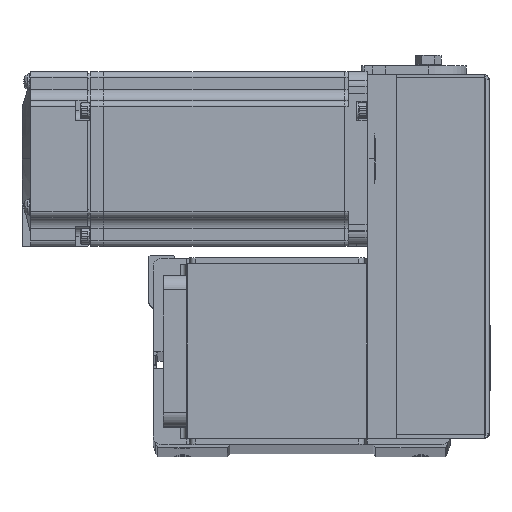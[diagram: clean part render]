
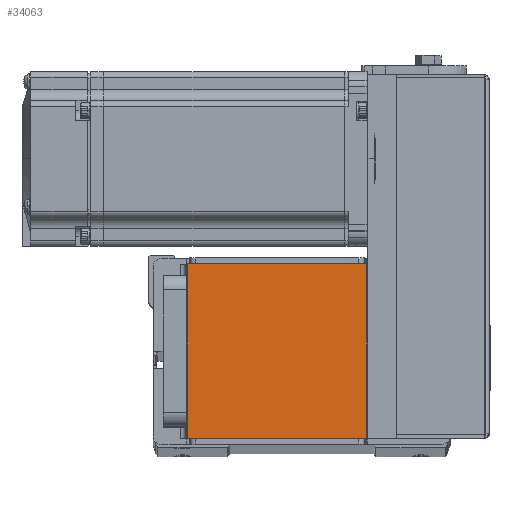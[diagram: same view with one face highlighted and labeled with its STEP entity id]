
A CAD part, top view. The second image highlights one B-rep face of the part: STEP entity #34063.
In plain terms, the highlighted planar face has unit normal (0, 0, 1) as drawn and (0, 1, 0) by its records, which use the part's own axes.
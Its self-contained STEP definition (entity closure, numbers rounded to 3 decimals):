
#417 = CARTESIAN_POINT ( 'NONE',  ( -30.7, 88., -2. ) ) ;
#1209 = DIRECTION ( 'NONE',  ( 0., 0., 1. ) ) ;
#1896 = EDGE_CURVE ( 'NONE', #35958, #2084, #44213, .T. ) ;
#2084 = VERTEX_POINT ( 'NONE', #417 ) ;
#4735 = PLANE ( 'NONE',  #14841 ) ;
#5255 = DIRECTION ( 'NONE',  ( -1., 0., 0. ) ) ;
#5449 = ORIENTED_EDGE ( 'NONE', *, *, #9844, .F. ) ;
#6679 = DIRECTION ( 'NONE',  ( 1., 0., 0. ) ) ;
#8016 = VECTOR ( 'NONE', #28304, 1000. ) ;
#8883 = DIRECTION ( 'NONE',  ( -1., 0., 0. ) ) ;
#8968 = DIRECTION ( 'NONE',  ( 0., 1., 0. ) ) ;
#9435 = LINE ( 'NONE', #45437, #36592 ) ;
#9844 = EDGE_CURVE ( 'NONE', #25719, #51723, #9435, .T. ) ;
#10814 = VECTOR ( 'NONE', #6679, 1000. ) ;
#12214 = CARTESIAN_POINT ( 'NONE',  ( 30.7, 88., -2. ) ) ;
#13191 = CARTESIAN_POINT ( 'NONE',  ( 30.7, 88., -64. ) ) ;
#13882 = LINE ( 'NONE', #37219, #35532 ) ;
#14841 = AXIS2_PLACEMENT_3D ( 'NONE', #13191, #8968, #5255 ) ;
#16085 = ORIENTED_EDGE ( 'NONE', *, *, #36932, .F. ) ;
#16141 = ORIENTED_EDGE ( 'NONE', *, *, #36499, .F. ) ;
#16856 = CARTESIAN_POINT ( 'NONE',  ( -30.7, 88., -62. ) ) ;
#17141 = EDGE_LOOP ( 'NONE', ( #16085, #20076, #16141, #5449 ) ) ;
#20076 = ORIENTED_EDGE ( 'NONE', *, *, #1896, .T. ) ;
#21414 = FACE_OUTER_BOUND ( 'NONE', #17141, .T. ) ;
#25719 = VERTEX_POINT ( 'NONE', #47191 ) ;
#28304 = DIRECTION ( 'NONE',  ( 0., 0., 1. ) ) ;
#30745 = LINE ( 'NONE', #42937, #10814 ) ;
#34063 = ADVANCED_FACE ( 'NONE', ( #21414 ), #4735, .T. ) ;
#35532 = VECTOR ( 'NONE', #8883, 1000. ) ;
#35958 = VERTEX_POINT ( 'NONE', #16856 ) ;
#36499 = EDGE_CURVE ( 'NONE', #51723, #2084, #13882, .T. ) ;
#36592 = VECTOR ( 'NONE', #1209, 1000. ) ;
#36932 = EDGE_CURVE ( 'NONE', #35958, #25719, #30745, .T. ) ;
#37219 = CARTESIAN_POINT ( 'NONE',  ( -31., 88., -2. ) ) ;
#42937 = CARTESIAN_POINT ( 'NONE',  ( -31., 88., -62. ) ) ;
#44213 = LINE ( 'NONE', #51337, #8016 ) ;
#45437 = CARTESIAN_POINT ( 'NONE',  ( 30.7, 88., -64. ) ) ;
#47191 = CARTESIAN_POINT ( 'NONE',  ( 30.7, 88., -62. ) ) ;
#51337 = CARTESIAN_POINT ( 'NONE',  ( -30.7, 88., -64. ) ) ;
#51723 = VERTEX_POINT ( 'NONE', #12214 ) ;
